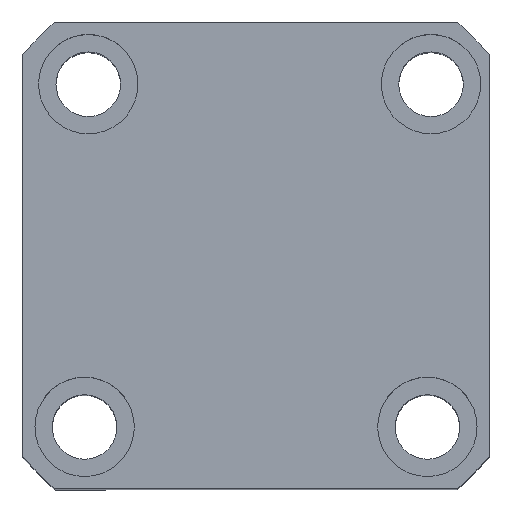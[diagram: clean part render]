
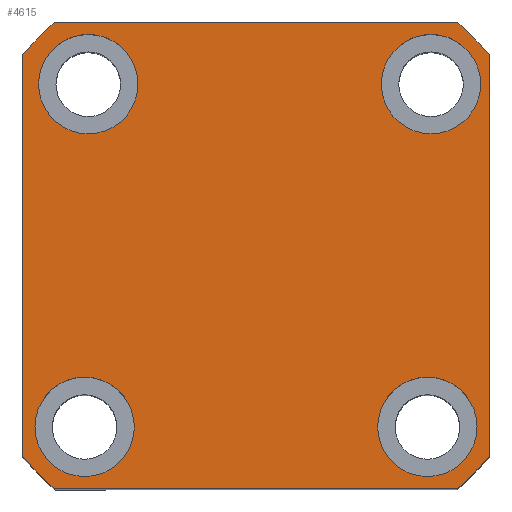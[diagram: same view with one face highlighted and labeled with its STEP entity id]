
A CAD part, top view. The second image highlights one B-rep face of the part: STEP entity #4615.
In plain terms, the highlighted planar face has unit normal (0, 0, 1) as drawn and (0, 0, -1) by its records, which use the part's own axes.
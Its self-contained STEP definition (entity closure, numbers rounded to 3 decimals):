
#11 = VERTEX_POINT ( 'NONE', #6706 ) ;
#54 = AXIS2_PLACEMENT_3D ( 'NONE', #11293, #3106, #12667 ) ;
#478 = CIRCLE ( 'NONE', #54, 62. ) ;
#621 = AXIS2_PLACEMENT_3D ( 'NONE', #11951, #3813, #13383 ) ;
#654 = VERTEX_POINT ( 'NONE', #15401 ) ;
#681 = CARTESIAN_POINT ( 'NONE',  ( 0., 0., 0. ) ) ;
#694 = CARTESIAN_POINT ( 'NONE',  ( 40.435, -47., 0. ) ) ;
#739 = AXIS2_PLACEMENT_3D ( 'NONE', #13822, #5588, #15202 ) ;
#797 = EDGE_CURVE ( 'NONE', #4527, #11, #14106, .T. ) ;
#1087 = AXIS2_PLACEMENT_3D ( 'NONE', #10609, #10641, #10645 ) ;
#1105 = CIRCLE ( 'NONE', #7628, 10. ) ;
#1534 = CIRCLE ( 'NONE', #16277, 62. ) ;
#1543 = VERTEX_POINT ( 'NONE', #8369 ) ;
#1692 = CARTESIAN_POINT ( 'NONE',  ( -34.5, 34.5, 0. ) ) ;
#1774 = EDGE_CURVE ( 'NONE', #9736, #1543, #11527, .T. ) ;
#1964 = EDGE_CURVE ( 'NONE', #16090, #654, #12576, .T. ) ;
#2056 = FACE_BOUND ( 'NONE', #3970, .T. ) ;
#2081 = DIRECTION ( 'NONE',  ( 1., 0., 0. ) ) ;
#2113 = VECTOR ( 'NONE', #13595, 1000. ) ;
#2209 = EDGE_CURVE ( 'NONE', #17404, #5296, #15827, .T. ) ;
#2263 = CARTESIAN_POINT ( 'NONE',  ( -33.77, -34.5, 0. ) ) ;
#2446 = DIRECTION ( 'NONE',  ( 0., 0., -1. ) ) ;
#2501 = AXIS2_PLACEMENT_3D ( 'NONE', #7190, #16825, #8570 ) ;
#2529 = EDGE_CURVE ( 'NONE', #6017, #15931, #14956, .T. ) ;
#2783 = CARTESIAN_POINT ( 'NONE',  ( -40.435, 47., 0. ) ) ;
#3036 = VECTOR ( 'NONE', #4965, 1000. ) ;
#3106 = DIRECTION ( 'NONE',  ( 0., 0., 1. ) ) ;
#3548 = EDGE_LOOP ( 'NONE', ( #15695, #6641, #8435, #13764, #6552, #10655, #11675, #6518 ) ) ;
#3593 = EDGE_CURVE ( 'NONE', #11, #4527, #7406, .T. ) ;
#3639 = DIRECTION ( 'NONE',  ( -1., 0., 0. ) ) ;
#3685 = VERTEX_POINT ( 'NONE', #13133 ) ;
#3813 = DIRECTION ( 'NONE',  ( 0., 0., 1. ) ) ;
#3949 = EDGE_LOOP ( 'NONE', ( #12571, #17125 ) ) ;
#3970 = EDGE_LOOP ( 'NONE', ( #14533, #12033 ) ) ;
#4109 = VERTEX_POINT ( 'NONE', #12394 ) ;
#4157 = VECTOR ( 'NONE', #4923, 1000. ) ;
#4527 = VERTEX_POINT ( 'NONE', #14665 ) ;
#4596 = EDGE_CURVE ( 'NONE', #3685, #4109, #16206, .T. ) ;
#4615 = ADVANCED_FACE ( 'NONE', ( #2056, #12526, #9293, #17071, #8864 ), #17510, .F. ) ;
#4686 = VERTEX_POINT ( 'NONE', #6636 ) ;
#4704 = EDGE_CURVE ( 'NONE', #5296, #4686, #15321, .T. ) ;
#4783 = CARTESIAN_POINT ( 'NONE',  ( 47., -40.435, 0. ) ) ;
#4923 = DIRECTION ( 'NONE',  ( 1., 0., 0. ) ) ;
#4965 = DIRECTION ( 'NONE',  ( -1., 0., 0. ) ) ;
#5012 = CIRCLE ( 'NONE', #11180, 10. ) ;
#5296 = VERTEX_POINT ( 'NONE', #7470 ) ;
#5418 = CARTESIAN_POINT ( 'NONE',  ( 0., 0., 0. ) ) ;
#5493 = CARTESIAN_POINT ( 'NONE',  ( 40.435, 47., 0. ) ) ;
#5498 = EDGE_CURVE ( 'NONE', #6061, #11775, #11450, .T. ) ;
#5588 = DIRECTION ( 'NONE',  ( 0., 0., -1. ) ) ;
#6017 = VERTEX_POINT ( 'NONE', #6071 ) ;
#6061 = VERTEX_POINT ( 'NONE', #10647 ) ;
#6071 = CARTESIAN_POINT ( 'NONE',  ( -23.77, -34.5, 0. ) ) ;
#6288 = DIRECTION ( 'NONE',  ( 0., 0., -1. ) ) ;
#6518 = ORIENTED_EDGE ( 'NONE', *, *, #13766, .F. ) ;
#6552 = ORIENTED_EDGE ( 'NONE', *, *, #14813, .F. ) ;
#6636 = CARTESIAN_POINT ( 'NONE',  ( -47., -40.435, 0. ) ) ;
#6641 = ORIENTED_EDGE ( 'NONE', *, *, #1964, .F. ) ;
#6643 = LINE ( 'NONE', #8418, #3036 ) ;
#6706 = CARTESIAN_POINT ( 'NONE',  ( -24.5, 34.5, 0. ) ) ;
#6775 = DIRECTION ( 'NONE',  ( 1., 0., 0. ) ) ;
#6828 = EDGE_CURVE ( 'NONE', #4109, #3685, #5012, .T. ) ;
#6886 = AXIS2_PLACEMENT_3D ( 'NONE', #1692, #14014, #16559 ) ;
#7119 = EDGE_LOOP ( 'NONE', ( #14836, #12880 ) ) ;
#7190 = CARTESIAN_POINT ( 'NONE',  ( 35.23, -34.5, 0. ) ) ;
#7406 = CIRCLE ( 'NONE', #7716, 10. ) ;
#7470 = CARTESIAN_POINT ( 'NONE',  ( -47., 40.435, 0. ) ) ;
#7628 = AXIS2_PLACEMENT_3D ( 'NONE', #2263, #11831, #3639 ) ;
#7716 = AXIS2_PLACEMENT_3D ( 'NONE', #14534, #6288, #15915 ) ;
#7820 = DIRECTION ( 'NONE',  ( 0., 0., -1. ) ) ;
#8369 = CARTESIAN_POINT ( 'NONE',  ( 45.23, -34.5, 0. ) ) ;
#8418 = CARTESIAN_POINT ( 'NONE',  ( -47., 47., 0. ) ) ;
#8435 = ORIENTED_EDGE ( 'NONE', *, *, #8682, .F. ) ;
#8570 = DIRECTION ( 'NONE',  ( -1., 0., 0. ) ) ;
#8682 = EDGE_CURVE ( 'NONE', #11775, #16090, #478, .T. ) ;
#8864 = FACE_OUTER_BOUND ( 'NONE', #3548, .T. ) ;
#9208 = AXIS2_PLACEMENT_3D ( 'NONE', #10607, #2446, #12008 ) ;
#9293 = FACE_BOUND ( 'NONE', #3949, .T. ) ;
#9736 = VERTEX_POINT ( 'NONE', #14907 ) ;
#10230 = DIRECTION ( 'NONE',  ( 0., 0., 1. ) ) ;
#10607 = CARTESIAN_POINT ( 'NONE',  ( 34.5, 34.5, 0. ) ) ;
#10609 = CARTESIAN_POINT ( 'NONE',  ( 35.23, -34.5, 0. ) ) ;
#10641 = DIRECTION ( 'NONE',  ( 0., 0., -1. ) ) ;
#10645 = DIRECTION ( 'NONE',  ( -1., 0., 0. ) ) ;
#10647 = CARTESIAN_POINT ( 'NONE',  ( -40.435, -47., 0. ) ) ;
#10655 = ORIENTED_EDGE ( 'NONE', *, *, #4704, .F. ) ;
#11180 = AXIS2_PLACEMENT_3D ( 'NONE', #16063, #7820, #17475 ) ;
#11293 = CARTESIAN_POINT ( 'NONE',  ( 0., 0., 0. ) ) ;
#11450 = LINE ( 'NONE', #13000, #4157 ) ;
#11527 = CIRCLE ( 'NONE', #1087, 10. ) ;
#11675 = ORIENTED_EDGE ( 'NONE', *, *, #2209, .F. ) ;
#11683 = VECTOR ( 'NONE', #17673, 1000. ) ;
#11775 = VERTEX_POINT ( 'NONE', #694 ) ;
#11831 = DIRECTION ( 'NONE',  ( 0., 0., -1. ) ) ;
#11951 = CARTESIAN_POINT ( 'NONE',  ( 0., 0., 0. ) ) ;
#12008 = DIRECTION ( 'NONE',  ( -1., 0., 0. ) ) ;
#12033 = ORIENTED_EDGE ( 'NONE', *, *, #14236, .F. ) ;
#12394 = CARTESIAN_POINT ( 'NONE',  ( 24.5, 34.5, 0. ) ) ;
#12465 = AXIS2_PLACEMENT_3D ( 'NONE', #5418, #15030, #6775 ) ;
#12526 = FACE_BOUND ( 'NONE', #15305, .T. ) ;
#12571 = ORIENTED_EDGE ( 'NONE', *, *, #797, .F. ) ;
#12576 = LINE ( 'NONE', #13574, #2113 ) ;
#12667 = DIRECTION ( 'NONE',  ( 1., 0., 0. ) ) ;
#12880 = ORIENTED_EDGE ( 'NONE', *, *, #4596, .F. ) ;
#13000 = CARTESIAN_POINT ( 'NONE',  ( -47., -47., 0. ) ) ;
#13133 = CARTESIAN_POINT ( 'NONE',  ( 44.5, 34.5, 0. ) ) ;
#13383 = DIRECTION ( 'NONE',  ( 1., 0., 0. ) ) ;
#13574 = CARTESIAN_POINT ( 'NONE',  ( 47., 47., 0. ) ) ;
#13595 = DIRECTION ( 'NONE',  ( 0., 1., 0. ) ) ;
#13764 = ORIENTED_EDGE ( 'NONE', *, *, #5498, .F. ) ;
#13766 = EDGE_CURVE ( 'NONE', #17531, #17404, #6643, .T. ) ;
#13822 = CARTESIAN_POINT ( 'NONE',  ( -33.77, -34.5, 0. ) ) ;
#14014 = DIRECTION ( 'NONE',  ( 0., 0., -1. ) ) ;
#14106 = CIRCLE ( 'NONE', #6886, 10. ) ;
#14236 = EDGE_CURVE ( 'NONE', #1543, #9736, #14623, .T. ) ;
#14533 = ORIENTED_EDGE ( 'NONE', *, *, #1774, .F. ) ;
#14534 = CARTESIAN_POINT ( 'NONE',  ( -34.5, 34.5, 0. ) ) ;
#14623 = CIRCLE ( 'NONE', #2501, 10. ) ;
#14665 = CARTESIAN_POINT ( 'NONE',  ( -44.5, 34.5, 0. ) ) ;
#14813 = EDGE_CURVE ( 'NONE', #4686, #6061, #1534, .T. ) ;
#14836 = ORIENTED_EDGE ( 'NONE', *, *, #6828, .F. ) ;
#14859 = AXIS2_PLACEMENT_3D ( 'NONE', #16476, #16497, #16657 ) ;
#14907 = CARTESIAN_POINT ( 'NONE',  ( 25.23, -34.5, 0. ) ) ;
#14956 = CIRCLE ( 'NONE', #739, 10. ) ;
#15008 = EDGE_CURVE ( 'NONE', #15931, #6017, #1105, .T. ) ;
#15030 = DIRECTION ( 'NONE',  ( 0., 0., 1. ) ) ;
#15202 = DIRECTION ( 'NONE',  ( -1., 0., 0. ) ) ;
#15305 = EDGE_LOOP ( 'NONE', ( #17007, #17346 ) ) ;
#15321 = LINE ( 'NONE', #16272, #11683 ) ;
#15401 = CARTESIAN_POINT ( 'NONE',  ( 47., 40.435, 0. ) ) ;
#15691 = CIRCLE ( 'NONE', #12465, 62. ) ;
#15695 = ORIENTED_EDGE ( 'NONE', *, *, #16755, .F. ) ;
#15827 = CIRCLE ( 'NONE', #14859, 62. ) ;
#15915 = DIRECTION ( 'NONE',  ( -1., 0., 0. ) ) ;
#15931 = VERTEX_POINT ( 'NONE', #16916 ) ;
#16063 = CARTESIAN_POINT ( 'NONE',  ( 34.5, 34.5, 0. ) ) ;
#16090 = VERTEX_POINT ( 'NONE', #4783 ) ;
#16206 = CIRCLE ( 'NONE', #9208, 10. ) ;
#16272 = CARTESIAN_POINT ( 'NONE',  ( -47., 47., 0. ) ) ;
#16277 = AXIS2_PLACEMENT_3D ( 'NONE', #681, #10230, #2081 ) ;
#16476 = CARTESIAN_POINT ( 'NONE',  ( 0., 0., 0. ) ) ;
#16497 = DIRECTION ( 'NONE',  ( 0., 0., 1. ) ) ;
#16559 = DIRECTION ( 'NONE',  ( -1., 0., 0. ) ) ;
#16657 = DIRECTION ( 'NONE',  ( 1., 0., 0. ) ) ;
#16755 = EDGE_CURVE ( 'NONE', #654, #17531, #15691, .T. ) ;
#16825 = DIRECTION ( 'NONE',  ( 0., 0., -1. ) ) ;
#16916 = CARTESIAN_POINT ( 'NONE',  ( -43.77, -34.5, 0. ) ) ;
#17007 = ORIENTED_EDGE ( 'NONE', *, *, #15008, .F. ) ;
#17071 = FACE_BOUND ( 'NONE', #7119, .T. ) ;
#17125 = ORIENTED_EDGE ( 'NONE', *, *, #3593, .F. ) ;
#17346 = ORIENTED_EDGE ( 'NONE', *, *, #2529, .F. ) ;
#17404 = VERTEX_POINT ( 'NONE', #2783 ) ;
#17475 = DIRECTION ( 'NONE',  ( -1., 0., 0. ) ) ;
#17510 = PLANE ( 'NONE',  #621 ) ;
#17531 = VERTEX_POINT ( 'NONE', #5493 ) ;
#17673 = DIRECTION ( 'NONE',  ( 0., -1., 0. ) ) ;
